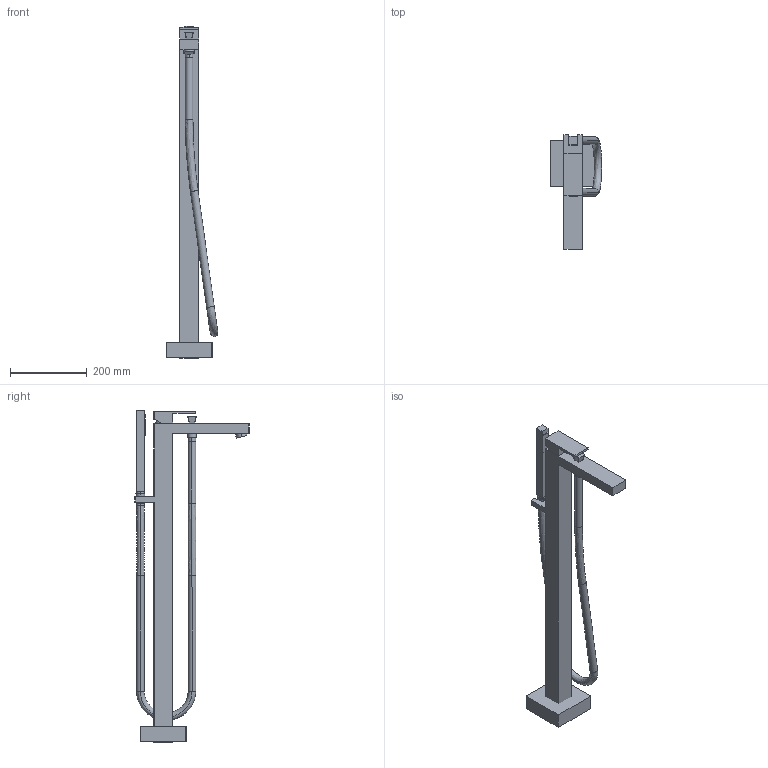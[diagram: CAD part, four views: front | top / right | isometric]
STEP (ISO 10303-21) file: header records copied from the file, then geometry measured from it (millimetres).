
FILE_DESCRIPTION(('FreeCAD Model'),'2;1');
FILE_NAME('Open CASCADE Shape Model','2024-08-08T17:38:39',('Author'),( ''),'Open CASCADE STEP processor 7.6','FreeCAD','Unknown');
FILE_SCHEMA(('AUTOMOTIVE_DESIGN { 1 0 10303 214 1 1 1 1 }'));
Length unit declared in the file: millimetre
Products named in the file (15): TopLevelAssembly; Wyciąganie001; Obrót profilu; Połączona geometria bryłowa; Połączona geometria bryłowa002; Wyciąganie002; Wyciąganie003; Obrót profilu001; Stapianie profili; Wyciągnięcie po ścieżce; SquareHandset005; SquareHandset2; SquareHandset003; SquareHandset004; Stapianie profili001
Assembly tree (14 placements, depth 3):
  TopLevelAssembly
    Wyciąganie001
    Obrót profilu
    Połączona geometria bryłowa
    Połączona geometria bryłowa002
    Wyciąganie002
    Wyciąganie003
    Obrót profilu001
    Stapianie profili
    Wyciągnięcie po ścieżce
    SquareHandset005
      SquareHandset2
      SquareHandset003
      SquareHandset004
    Stapianie profili001
Bounding box: 135.1 x 300 x 868 mm (x, y, z)
Volume: 3620954.5 mm3; surface area: 396536.9 mm2
Topology: 13 solids, 13 shells, 123 faces, 265 edges, 168 vertices
Faces by surface type: plane 70, cylinder 39, bspline 12, cone 2
Entity records: 4562 total; most frequent: CARTESIAN_POINT 1475, DIRECTION 617, ORIENTED_EDGE 530, EDGE_CURVE 265, AXIS2_PLACEMENT_3D 228, VERTEX_POINT 168, LINE 161, VECTOR 161
